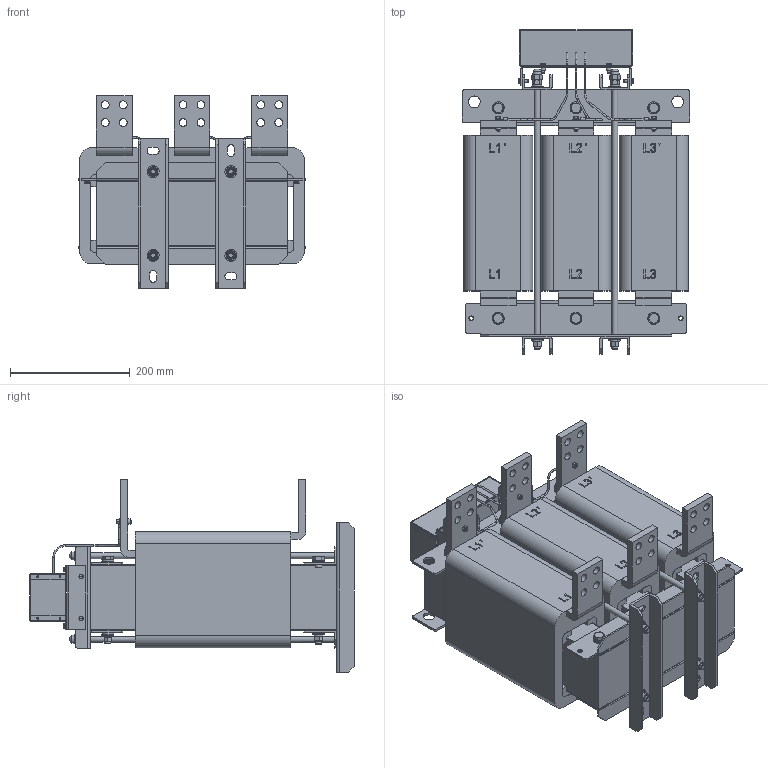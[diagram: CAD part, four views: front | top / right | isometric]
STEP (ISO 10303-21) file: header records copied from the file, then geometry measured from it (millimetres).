
FILE_DESCRIPTION(('STEP AP203'), '1');
FILE_NAME('IDUDT-800_1500-4 _ dU_dt ôèëüòð 800 êÂò', '', ('UNSPECIFIED'), ('UNSPECIFIED'), 'C3D Converter', 'C3D Toolkit', '');
FILE_SCHEMA(('CONFIG_CONTROL_DESIGN'));
Length unit declared in the file: millimetre
Products named in the file (23): IDUDT-800/1500-4
Assembly tree (80 placements, depth 3):
  IDUDT-800/1500-4
    (unnamed)
    (unnamed)  x6
    (unnamed)  x2
    (unnamed)
    (unnamed)
    (unnamed)  x2
    (unnamed)  x2
    (unnamed)  x8
      (unnamed)
      (unnamed)
      (unnamed)
    (unnamed)  x4
    (unnamed)  x4
    (unnamed)  x12
    (unnamed)  x6
      (unnamed)
      (unnamed)
      (unnamed)
    (unnamed)  x6
    (unnamed)
    (unnamed)  x3
    (unnamed)  x3
    (unnamed)
    (unnamed)
    (unnamed)  x8
    (unnamed)
Bounding box: 380 x 543 x 322 mm (x, y, z)
Volume: 21489622.2 mm3; surface area: 2709935 mm2
Topology: 133 solids, 133 shells, 1853 faces, 4270 edges, 2756 vertices
Faces by surface type: plane 1097, cylinder 444, cone 232, bspline 57, torus 19, sphere 4
Full cylindrical faces by diameter (mm): 3 x19, 3.2 x16, 4.465 x1, 5 x22, 5.417 x2, 5.558 x3, 6 x4, 6.917 x14, 7 x3, 8 x4, 8.422 x4, 9 x3, 10 x12, 10.9 x14, 11 x34, 11.63 x14, 12 x12, 13 x24, 14 x18, 16 x12, 16.1 x14, 20 x36
Entity records: 53697 total; most frequent: CARTESIAN_POINT 23154, ORIENTED_EDGE 4118, DIRECTION 4080, EDGE_CURVE 2059, AXIS2_PLACEMENT_3D 1452, VERTEX_POINT 1439, EDGE_LOOP 1240, LINE 1176
